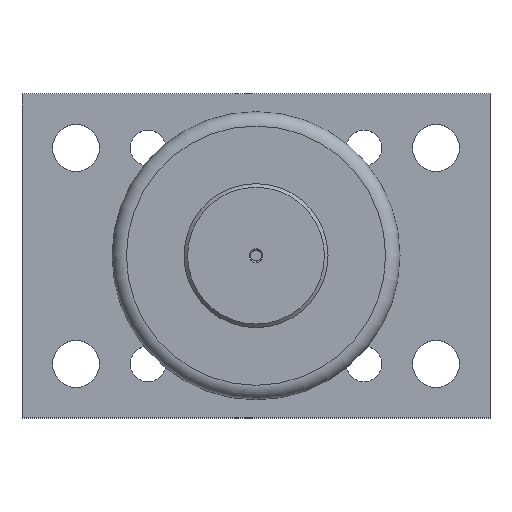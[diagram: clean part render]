
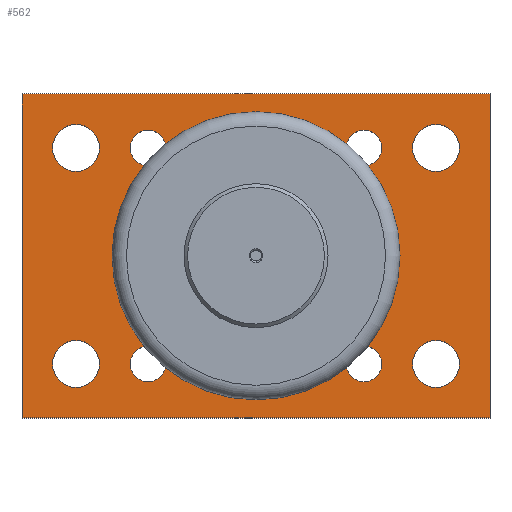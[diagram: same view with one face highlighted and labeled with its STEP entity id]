
A CAD part, top view. The second image highlights one B-rep face of the part: STEP entity #562.
In plain terms, the highlighted planar face has unit normal (0, 0, 1).
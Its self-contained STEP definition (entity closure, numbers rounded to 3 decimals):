
#19=FACE_BOUND('',#93,.T.);
#20=FACE_BOUND('',#94,.T.);
#21=FACE_BOUND('',#95,.T.);
#22=FACE_BOUND('',#96,.T.);
#23=FACE_BOUND('',#97,.T.);
#24=FACE_BOUND('',#98,.T.);
#25=FACE_BOUND('',#99,.T.);
#26=FACE_BOUND('',#100,.T.);
#27=FACE_BOUND('',#101,.T.);
#40=PLANE('',#634);
#62=FACE_OUTER_BOUND('',#92,.T.);
#92=EDGE_LOOP('',(#419,#420,#421,#422));
#93=EDGE_LOOP('',(#423,#424));
#94=EDGE_LOOP('',(#425,#426));
#95=EDGE_LOOP('',(#427,#428));
#96=EDGE_LOOP('',(#429,#430));
#97=EDGE_LOOP('',(#431,#432));
#98=EDGE_LOOP('',(#433,#434));
#99=EDGE_LOOP('',(#435,#436));
#100=EDGE_LOOP('',(#437,#438));
#101=EDGE_LOOP('',(#439,#440));
#130=LINE('',#925,#157);
#131=LINE('',#927,#158);
#132=LINE('',#929,#159);
#133=LINE('',#930,#160);
#157=VECTOR('',#759,10.);
#158=VECTOR('',#760,10.);
#159=VECTOR('',#761,10.);
#160=VECTOR('',#762,10.);
#200=CIRCLE('',#632,11.);
#201=CIRCLE('',#633,11.);
#202=CIRCLE('',#635,2.459);
#203=CIRCLE('',#636,2.459);
#204=CIRCLE('',#637,2.459);
#205=CIRCLE('',#638,2.459);
#206=CIRCLE('',#639,2.459);
#207=CIRCLE('',#640,2.459);
#208=CIRCLE('',#641,2.459);
#209=CIRCLE('',#642,2.459);
#210=CIRCLE('',#643,3.25);
#211=CIRCLE('',#644,3.25);
#212=CIRCLE('',#645,3.25);
#213=CIRCLE('',#646,3.25);
#214=CIRCLE('',#647,3.25);
#215=CIRCLE('',#648,3.25);
#216=CIRCLE('',#649,3.25);
#217=CIRCLE('',#650,3.25);
#247=VERTEX_POINT('',#917);
#248=VERTEX_POINT('',#919);
#249=VERTEX_POINT('',#923);
#250=VERTEX_POINT('',#924);
#251=VERTEX_POINT('',#926);
#252=VERTEX_POINT('',#928);
#253=VERTEX_POINT('',#931);
#254=VERTEX_POINT('',#932);
#255=VERTEX_POINT('',#935);
#256=VERTEX_POINT('',#936);
#257=VERTEX_POINT('',#939);
#258=VERTEX_POINT('',#940);
#259=VERTEX_POINT('',#943);
#260=VERTEX_POINT('',#944);
#261=VERTEX_POINT('',#947);
#262=VERTEX_POINT('',#948);
#263=VERTEX_POINT('',#951);
#264=VERTEX_POINT('',#952);
#265=VERTEX_POINT('',#955);
#266=VERTEX_POINT('',#956);
#267=VERTEX_POINT('',#959);
#268=VERTEX_POINT('',#960);
#311=EDGE_CURVE('',#248,#247,#200,.T.);
#312=EDGE_CURVE('',#247,#248,#201,.T.);
#313=EDGE_CURVE('',#249,#250,#130,.T.);
#314=EDGE_CURVE('',#250,#251,#131,.T.);
#315=EDGE_CURVE('',#251,#252,#132,.T.);
#316=EDGE_CURVE('',#252,#249,#133,.T.);
#317=EDGE_CURVE('',#253,#254,#202,.T.);
#318=EDGE_CURVE('',#254,#253,#203,.T.);
#319=EDGE_CURVE('',#255,#256,#204,.T.);
#320=EDGE_CURVE('',#256,#255,#205,.T.);
#321=EDGE_CURVE('',#257,#258,#206,.T.);
#322=EDGE_CURVE('',#258,#257,#207,.T.);
#323=EDGE_CURVE('',#259,#260,#208,.T.);
#324=EDGE_CURVE('',#260,#259,#209,.T.);
#325=EDGE_CURVE('',#261,#262,#210,.T.);
#326=EDGE_CURVE('',#262,#261,#211,.T.);
#327=EDGE_CURVE('',#263,#264,#212,.T.);
#328=EDGE_CURVE('',#264,#263,#213,.T.);
#329=EDGE_CURVE('',#265,#266,#214,.T.);
#330=EDGE_CURVE('',#266,#265,#215,.T.);
#331=EDGE_CURVE('',#267,#268,#216,.T.);
#332=EDGE_CURVE('',#268,#267,#217,.T.);
#419=ORIENTED_EDGE('',*,*,#313,.T.);
#420=ORIENTED_EDGE('',*,*,#314,.T.);
#421=ORIENTED_EDGE('',*,*,#315,.T.);
#422=ORIENTED_EDGE('',*,*,#316,.T.);
#423=ORIENTED_EDGE('',*,*,#311,.T.);
#424=ORIENTED_EDGE('',*,*,#312,.T.);
#425=ORIENTED_EDGE('',*,*,#317,.T.);
#426=ORIENTED_EDGE('',*,*,#318,.T.);
#427=ORIENTED_EDGE('',*,*,#319,.T.);
#428=ORIENTED_EDGE('',*,*,#320,.T.);
#429=ORIENTED_EDGE('',*,*,#321,.T.);
#430=ORIENTED_EDGE('',*,*,#322,.T.);
#431=ORIENTED_EDGE('',*,*,#323,.T.);
#432=ORIENTED_EDGE('',*,*,#324,.T.);
#433=ORIENTED_EDGE('',*,*,#325,.T.);
#434=ORIENTED_EDGE('',*,*,#326,.T.);
#435=ORIENTED_EDGE('',*,*,#327,.T.);
#436=ORIENTED_EDGE('',*,*,#328,.T.);
#437=ORIENTED_EDGE('',*,*,#329,.T.);
#438=ORIENTED_EDGE('',*,*,#330,.T.);
#439=ORIENTED_EDGE('',*,*,#331,.T.);
#440=ORIENTED_EDGE('',*,*,#332,.T.);
#562=ADVANCED_FACE('',(#62,#19,#20,#21,#22,#23,#24,#25,#26,#27),#40,.T.);
#632=AXIS2_PLACEMENT_3D('',#920,#753,#754);
#633=AXIS2_PLACEMENT_3D('',#921,#755,#756);
#634=AXIS2_PLACEMENT_3D('',#922,#757,#758);
#635=AXIS2_PLACEMENT_3D('',#933,#763,#764);
#636=AXIS2_PLACEMENT_3D('',#934,#765,#766);
#637=AXIS2_PLACEMENT_3D('',#937,#767,#768);
#638=AXIS2_PLACEMENT_3D('',#938,#769,#770);
#639=AXIS2_PLACEMENT_3D('',#941,#771,#772);
#640=AXIS2_PLACEMENT_3D('',#942,#773,#774);
#641=AXIS2_PLACEMENT_3D('',#945,#775,#776);
#642=AXIS2_PLACEMENT_3D('',#946,#777,#778);
#643=AXIS2_PLACEMENT_3D('',#949,#779,#780);
#644=AXIS2_PLACEMENT_3D('',#950,#781,#782);
#645=AXIS2_PLACEMENT_3D('',#953,#783,#784);
#646=AXIS2_PLACEMENT_3D('',#954,#785,#786);
#647=AXIS2_PLACEMENT_3D('',#957,#787,#788);
#648=AXIS2_PLACEMENT_3D('',#958,#789,#790);
#649=AXIS2_PLACEMENT_3D('',#961,#791,#792);
#650=AXIS2_PLACEMENT_3D('',#962,#793,#794);
#753=DIRECTION('center_axis',(0.,0.,-1.));
#754=DIRECTION('ref_axis',(0.,1.,0.));
#755=DIRECTION('center_axis',(0.,0.,-1.));
#756=DIRECTION('ref_axis',(0.,1.,0.));
#757=DIRECTION('center_axis',(0.,0.,1.));
#758=DIRECTION('ref_axis',(0.,-1.,0.));
#759=DIRECTION('',(1.,0.,0.));
#760=DIRECTION('',(0.,1.,0.));
#761=DIRECTION('',(-1.,0.,0.));
#762=DIRECTION('',(0.,-1.,0.));
#763=DIRECTION('center_axis',(0.,0.,-1.));
#764=DIRECTION('ref_axis',(1.,0.,0.));
#765=DIRECTION('center_axis',(0.,0.,-1.));
#766=DIRECTION('ref_axis',(1.,0.,0.));
#767=DIRECTION('center_axis',(0.,0.,-1.));
#768=DIRECTION('ref_axis',(1.,0.,0.));
#769=DIRECTION('center_axis',(0.,0.,-1.));
#770=DIRECTION('ref_axis',(1.,0.,0.));
#771=DIRECTION('center_axis',(0.,0.,-1.));
#772=DIRECTION('ref_axis',(1.,0.,0.));
#773=DIRECTION('center_axis',(0.,0.,-1.));
#774=DIRECTION('ref_axis',(1.,0.,0.));
#775=DIRECTION('center_axis',(0.,0.,-1.));
#776=DIRECTION('ref_axis',(1.,0.,0.));
#777=DIRECTION('center_axis',(0.,0.,-1.));
#778=DIRECTION('ref_axis',(1.,0.,0.));
#779=DIRECTION('center_axis',(0.,0.,-1.));
#780=DIRECTION('ref_axis',(1.,0.,0.));
#781=DIRECTION('center_axis',(0.,0.,-1.));
#782=DIRECTION('ref_axis',(1.,0.,0.));
#783=DIRECTION('center_axis',(0.,0.,-1.));
#784=DIRECTION('ref_axis',(1.,0.,0.));
#785=DIRECTION('center_axis',(0.,0.,-1.));
#786=DIRECTION('ref_axis',(1.,0.,0.));
#787=DIRECTION('center_axis',(0.,0.,-1.));
#788=DIRECTION('ref_axis',(1.,0.,0.));
#789=DIRECTION('center_axis',(0.,0.,-1.));
#790=DIRECTION('ref_axis',(1.,0.,0.));
#791=DIRECTION('center_axis',(0.,0.,-1.));
#792=DIRECTION('ref_axis',(1.,0.,0.));
#793=DIRECTION('center_axis',(0.,0.,-1.));
#794=DIRECTION('ref_axis',(1.,0.,0.));
#917=CARTESIAN_POINT('',(0.234,-11.936,-8.5));
#919=CARTESIAN_POINT('',(-10.766,-0.936,-8.5));
#920=CARTESIAN_POINT('Origin',(0.234,-0.936,-8.5));
#921=CARTESIAN_POINT('Origin',(0.234,-0.936,-8.5));
#922=CARTESIAN_POINT('Origin',(0.234,-0.936,-8.5));
#923=CARTESIAN_POINT('',(-32.266,-23.436,-8.5));
#924=CARTESIAN_POINT('',(32.734,-23.436,-8.5));
#925=CARTESIAN_POINT('',(-32.266,-23.436,-8.5));
#926=CARTESIAN_POINT('',(32.734,21.564,-8.5));
#927=CARTESIAN_POINT('',(32.734,-23.436,-8.5));
#928=CARTESIAN_POINT('',(-32.266,21.564,-8.5));
#929=CARTESIAN_POINT('',(32.734,21.564,-8.5));
#930=CARTESIAN_POINT('',(-32.266,21.564,-8.5));
#931=CARTESIAN_POINT('',(-12.307,-15.936,-8.5));
#932=CARTESIAN_POINT('',(-17.224,-15.936,-8.5));
#933=CARTESIAN_POINT('Origin',(-14.766,-15.936,-8.5));
#934=CARTESIAN_POINT('Origin',(-14.766,-15.936,-8.5));
#935=CARTESIAN_POINT('',(17.693,14.064,-8.5));
#936=CARTESIAN_POINT('',(12.776,14.064,-8.5));
#937=CARTESIAN_POINT('Origin',(15.234,14.064,-8.5));
#938=CARTESIAN_POINT('Origin',(15.234,14.064,-8.5));
#939=CARTESIAN_POINT('',(-12.307,14.064,-8.5));
#940=CARTESIAN_POINT('',(-17.224,14.064,-8.5));
#941=CARTESIAN_POINT('Origin',(-14.766,14.064,-8.5));
#942=CARTESIAN_POINT('Origin',(-14.766,14.064,-8.5));
#943=CARTESIAN_POINT('',(17.693,-15.936,-8.5));
#944=CARTESIAN_POINT('',(12.776,-15.936,-8.5));
#945=CARTESIAN_POINT('Origin',(15.234,-15.936,-8.5));
#946=CARTESIAN_POINT('Origin',(15.234,-15.936,-8.5));
#947=CARTESIAN_POINT('',(-21.516,-15.936,-8.5));
#948=CARTESIAN_POINT('',(-28.016,-15.936,-8.5));
#949=CARTESIAN_POINT('Origin',(-24.766,-15.936,-8.5));
#950=CARTESIAN_POINT('Origin',(-24.766,-15.936,-8.5));
#951=CARTESIAN_POINT('',(28.484,14.064,-8.5));
#952=CARTESIAN_POINT('',(21.984,14.064,-8.5));
#953=CARTESIAN_POINT('Origin',(25.234,14.064,-8.5));
#954=CARTESIAN_POINT('Origin',(25.234,14.064,-8.5));
#955=CARTESIAN_POINT('',(-21.516,14.064,-8.5));
#956=CARTESIAN_POINT('',(-28.016,14.064,-8.5));
#957=CARTESIAN_POINT('Origin',(-24.766,14.064,-8.5));
#958=CARTESIAN_POINT('Origin',(-24.766,14.064,-8.5));
#959=CARTESIAN_POINT('',(28.484,-15.936,-8.5));
#960=CARTESIAN_POINT('',(21.984,-15.936,-8.5));
#961=CARTESIAN_POINT('Origin',(25.234,-15.936,-8.5));
#962=CARTESIAN_POINT('Origin',(25.234,-15.936,-8.5));
